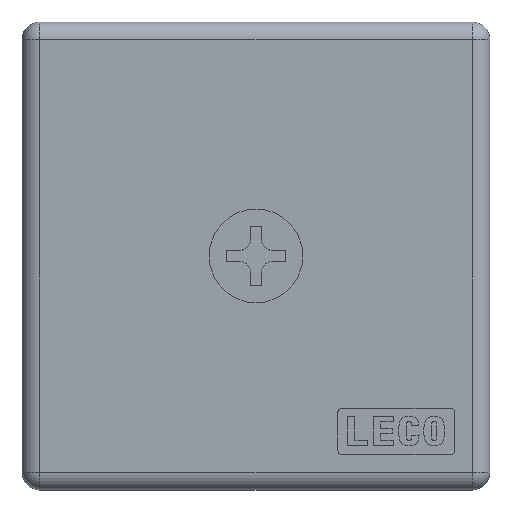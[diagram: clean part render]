
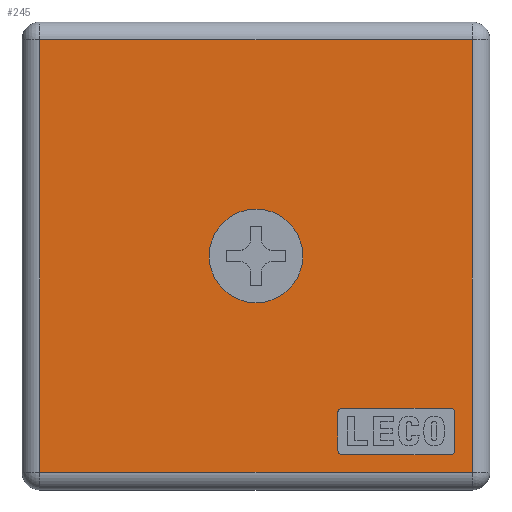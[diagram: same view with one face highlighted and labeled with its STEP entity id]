
A CAD part, top view. The second image highlights one B-rep face of the part: STEP entity #245.
In plain terms, the highlighted planar face has unit normal (0, 0, 1).
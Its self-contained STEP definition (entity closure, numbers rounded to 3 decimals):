
#245=ADVANCED_FACE('',(#600,#601,#602),#603,.F.);
#600=FACE_BOUND('',#1071,.T.);
#601=FACE_OUTER_BOUND('',#1072,.T.);
#602=FACE_BOUND('',#1073,.T.);
#603=PLANE('',#1074);
#1071=EDGE_LOOP('',(#1744,#1745,#1746,#1747,#1748,#1749,#1750,#1751));
#1072=EDGE_LOOP('',(#1752,#1753,#1754,#1755));
#1073=EDGE_LOOP('',(#1756));
#1074=AXIS2_PLACEMENT_3D('',#1757,#1758,#1759);
#1744=ORIENTED_EDGE('',*,*,#3006,.F.);
#1745=ORIENTED_EDGE('',*,*,#3007,.F.);
#1746=ORIENTED_EDGE('',*,*,#3008,.F.);
#1747=ORIENTED_EDGE('',*,*,#3009,.F.);
#1748=ORIENTED_EDGE('',*,*,#3010,.F.);
#1749=ORIENTED_EDGE('',*,*,#3011,.F.);
#1750=ORIENTED_EDGE('',*,*,#3012,.F.);
#1751=ORIENTED_EDGE('',*,*,#2899,.F.);
#1752=ORIENTED_EDGE('',*,*,#3013,.F.);
#1753=ORIENTED_EDGE('',*,*,#2875,.T.);
#1754=ORIENTED_EDGE('',*,*,#3014,.T.);
#1755=ORIENTED_EDGE('',*,*,#2872,.F.);
#1756=ORIENTED_EDGE('',*,*,#3015,.T.);
#1757=CARTESIAN_POINT('',(-7.157,1.5,3.0));
#1758=DIRECTION('',(0.0,0.0,-1.0));
#1759=DIRECTION('',(-1.0,0.0,0.0));
#2872=EDGE_CURVE('',#3460,#3462,#3463,.T.);
#2875=EDGE_CURVE('',#3466,#3467,#3468,.T.);
#2899=EDGE_CURVE('',#3504,#3506,#3507,.T.);
#3006=EDGE_CURVE('',#3681,#3504,#3682,.T.);
#3007=EDGE_CURVE('',#3683,#3681,#3684,.T.);
#3008=EDGE_CURVE('',#3685,#3683,#3686,.T.);
#3009=EDGE_CURVE('',#3687,#3685,#3688,.T.);
#3010=EDGE_CURVE('',#3689,#3687,#3690,.T.);
#3011=EDGE_CURVE('',#3691,#3689,#3692,.T.);
#3012=EDGE_CURVE('',#3506,#3691,#3693,.T.);
#3013=EDGE_CURVE('',#3466,#3460,#3694,.T.);
#3014=EDGE_CURVE('',#3467,#3462,#3695,.T.);
#3015=EDGE_CURVE('',#3696,#3696,#3697,.T.);
#3460=VERTEX_POINT('',#4287);
#3462=VERTEX_POINT('',#4289);
#3463=LINE('',#4290,#4291);
#3466=VERTEX_POINT('',#4294);
#3467=VERTEX_POINT('',#4295);
#3468=LINE('',#4296,#4297);
#3504=VERTEX_POINT('',#4344);
#3506=VERTEX_POINT('',#4347);
#3507=CIRCLE('',#4348,0.4);
#3681=VERTEX_POINT('',#4585);
#3682=LINE('',#4586,#4587);
#3683=VERTEX_POINT('',#4588);
#3684=CIRCLE('',#4589,0.4);
#3685=VERTEX_POINT('',#4590);
#3686=LINE('',#4591,#4592);
#3687=VERTEX_POINT('',#4593);
#3688=CIRCLE('',#4594,0.4);
#3689=VERTEX_POINT('',#4595);
#3690=LINE('',#4596,#4597);
#3691=VERTEX_POINT('',#4598);
#3692=CIRCLE('',#4599,0.4);
#3693=LINE('',#4600,#4601);
#3694=LINE('',#4602,#4603);
#3695=LINE('',#4604,#4605);
#3696=VERTEX_POINT('',#4606);
#3697=CIRCLE('',#4607,4.0);
#4287=CARTESIAN_POINT('',(38.5,38.5,3.0));
#4289=CARTESIAN_POINT('',(38.5,1.5,3.0));
#4290=CARTESIAN_POINT('',(38.5,44.711,3.0));
#4291=VECTOR('',#5361,1.0);
#4294=CARTESIAN_POINT('',(1.5,38.5,3.0));
#4295=CARTESIAN_POINT('',(1.5,1.5,3.0));
#4296=CARTESIAN_POINT('',(1.5,44.711,3.0));
#4297=VECTOR('',#5365,1.0);
#4344=CARTESIAN_POINT('',(37.,6.6,3.));
#4347=CARTESIAN_POINT('',(36.6,7.,3.));
#4348=AXIS2_PLACEMENT_3D('',#5396,#5397,#5398);
#4585=CARTESIAN_POINT('',(37.,3.4,3.));
#4586=CARTESIAN_POINT('',(37.,3.4,3.));
#4587=VECTOR('',#5525,1.0);
#4588=CARTESIAN_POINT('',(36.6,3.,3.));
#4589=AXIS2_PLACEMENT_3D('',#5526,#5527,#5528);
#4590=CARTESIAN_POINT('',(27.4,3.,3.));
#4591=CARTESIAN_POINT('',(27.4,3.,3.));
#4592=VECTOR('',#5529,1.0);
#4593=CARTESIAN_POINT('',(27.,3.4,3.));
#4594=AXIS2_PLACEMENT_3D('',#5530,#5531,#5532);
#4595=CARTESIAN_POINT('',(27.0,6.6,3.));
#4596=CARTESIAN_POINT('',(27.0,6.6,3.));
#4597=VECTOR('',#5533,1.0);
#4598=CARTESIAN_POINT('',(27.4,7.0,3.));
#4599=AXIS2_PLACEMENT_3D('',#5534,#5535,#5536);
#4600=CARTESIAN_POINT('',(36.6,7.,3.));
#4601=VECTOR('',#5537,1.0);
#4602=CARTESIAN_POINT('',(-7.157,38.5,3.0));
#4603=VECTOR('',#5538,1.0);
#4604=CARTESIAN_POINT('',(-7.157,1.5,3.0));
#4605=VECTOR('',#5539,1.0);
#4606=CARTESIAN_POINT('',(24.0,20.0,3.0));
#4607=AXIS2_PLACEMENT_3D('',#5540,#5541,#5542);
#5361=DIRECTION('',(0.0,-1.0,0.0));
#5365=DIRECTION('',(0.0,-1.0,0.0));
#5396=CARTESIAN_POINT('',(36.6,6.6,3.));
#5397=DIRECTION('',(0.0,0.0,1.0));
#5398=DIRECTION('',(1.0,0.0,0.0));
#5525=DIRECTION('',(0.0,1.0,0.0));
#5526=CARTESIAN_POINT('',(36.6,3.4,3.));
#5527=DIRECTION('',(0.0,0.0,1.0));
#5528=DIRECTION('',(1.0,0.0,0.0));
#5529=DIRECTION('',(1.0,0.0,0.0));
#5530=CARTESIAN_POINT('',(27.4,3.4,3.));
#5531=DIRECTION('',(0.0,0.0,1.0));
#5532=DIRECTION('',(1.0,0.0,0.0));
#5533=DIRECTION('',(0.,-1.0,0.0));
#5534=CARTESIAN_POINT('',(27.4,6.6,3.));
#5535=DIRECTION('',(0.0,0.0,1.0));
#5536=DIRECTION('',(1.0,0.0,0.0));
#5537=DIRECTION('',(-1.0,0.,0.0));
#5538=DIRECTION('',(1.0,0.0,0.0));
#5539=DIRECTION('',(1.0,0.0,0.0));
#5540=CARTESIAN_POINT('',(20.0,20.0,3.0));
#5541=DIRECTION('',(0.0,0.0,-1.0));
#5542=DIRECTION('',(1.0,0.0,0.0));
